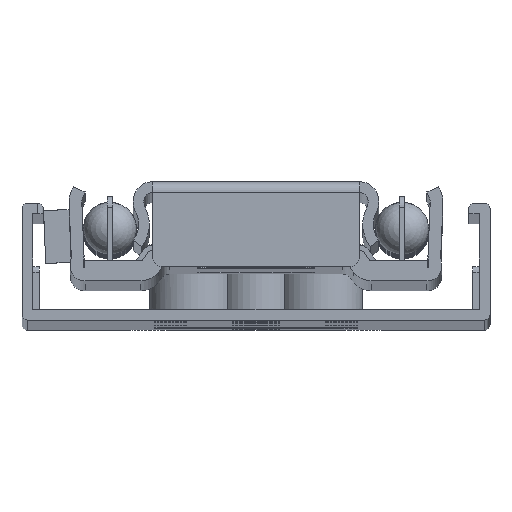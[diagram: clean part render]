
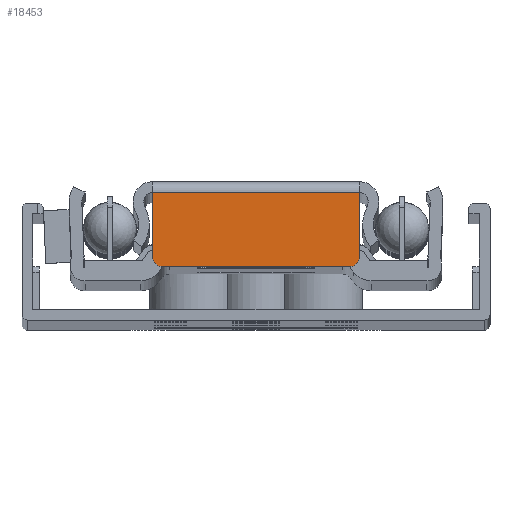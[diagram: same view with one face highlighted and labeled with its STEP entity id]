
A CAD part, top view. The second image highlights one B-rep face of the part: STEP entity #18453.
In plain terms, the highlighted planar face has unit normal (0, 0, 1).
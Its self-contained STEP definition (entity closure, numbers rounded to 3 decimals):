
#856=PLANE('',#20238);
#1764=FACE_OUTER_BOUND('',#2861,.T.);
#2861=EDGE_LOOP('',(#17061,#17062,#17063,#17064,#17065,#17066));
#4682=LINE('',#31275,#6507);
#4683=LINE('',#31278,#6508);
#4684=LINE('',#31282,#6509);
#4685=LINE('',#31285,#6510);
#6507=VECTOR('',#25492,10.);
#6508=VECTOR('',#25495,10.);
#6509=VECTOR('',#25498,10.);
#6510=VECTOR('',#25501,10.);
#7358=CIRCLE('',#20239,1.);
#7359=CIRCLE('',#20240,1.);
#9106=VERTEX_POINT('',#31271);
#9107=VERTEX_POINT('',#31273);
#9108=VERTEX_POINT('',#31277);
#9109=VERTEX_POINT('',#31279);
#9110=VERTEX_POINT('',#31281);
#9111=VERTEX_POINT('',#31283);
#11776=EDGE_CURVE('',#9107,#9106,#4682,.T.);
#11777=EDGE_CURVE('',#9107,#9108,#4683,.T.);
#11778=EDGE_CURVE('',#9109,#9108,#7358,.T.);
#11779=EDGE_CURVE('',#9109,#9110,#4684,.T.);
#11780=EDGE_CURVE('',#9111,#9110,#7359,.T.);
#11781=EDGE_CURVE('',#9106,#9111,#4685,.T.);
#17061=ORIENTED_EDGE('',*,*,#11776,.F.);
#17062=ORIENTED_EDGE('',*,*,#11777,.T.);
#17063=ORIENTED_EDGE('',*,*,#11778,.F.);
#17064=ORIENTED_EDGE('',*,*,#11779,.T.);
#17065=ORIENTED_EDGE('',*,*,#11780,.F.);
#17066=ORIENTED_EDGE('',*,*,#11781,.F.);
#18453=ADVANCED_FACE('',(#1764),#856,.T.);
#20238=AXIS2_PLACEMENT_3D('',#31276,#25493,#25494);
#20239=AXIS2_PLACEMENT_3D('',#31280,#25496,#25497);
#20240=AXIS2_PLACEMENT_3D('',#31284,#25499,#25500);
#25492=DIRECTION('',(-1.,0.,0.));
#25493=DIRECTION('center_axis',(0.,0.,1.));
#25494=DIRECTION('ref_axis',(1.,0.,0.));
#25495=DIRECTION('',(0.,1.,0.));
#25496=DIRECTION('center_axis',(0.,0.,-1.));
#25497=DIRECTION('ref_axis',(0.707,0.707,0.));
#25498=DIRECTION('',(-1.,0.,0.));
#25499=DIRECTION('center_axis',(0.,0.,-1.));
#25500=DIRECTION('ref_axis',(-0.707,0.707,0.));
#25501=DIRECTION('',(0.,1.,0.));
#31271=CARTESIAN_POINT('',(4.892,-4.95,549.));
#31273=CARTESIAN_POINT('',(24.354,-4.95,549.));
#31275=CARTESIAN_POINT('',(19.501,-4.95,549.));
#31276=CARTESIAN_POINT('Origin',(24.354,-5.95,549.));
#31277=CARTESIAN_POINT('',(24.354,1.05,549.));
#31278=CARTESIAN_POINT('',(24.354,-5.95,549.));
#31279=CARTESIAN_POINT('',(23.354,2.05,549.));
#31280=CARTESIAN_POINT('Origin',(23.354,1.05,549.));
#31281=CARTESIAN_POINT('',(5.892,2.05,549.));
#31282=CARTESIAN_POINT('',(24.354,2.05,549.));
#31283=CARTESIAN_POINT('',(4.892,1.05,549.));
#31284=CARTESIAN_POINT('Origin',(5.892,1.05,549.));
#31285=CARTESIAN_POINT('',(4.892,-5.95,549.));
